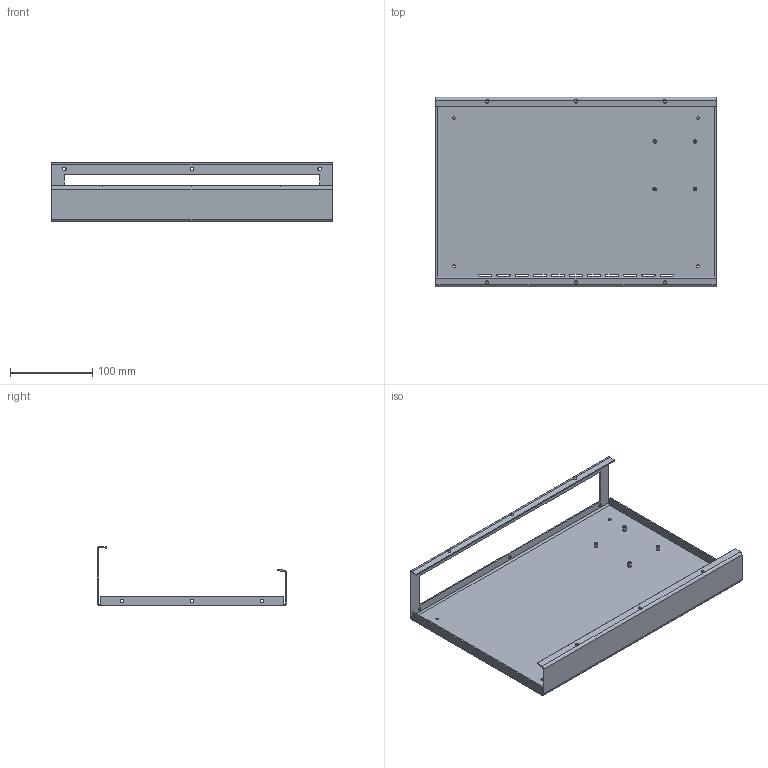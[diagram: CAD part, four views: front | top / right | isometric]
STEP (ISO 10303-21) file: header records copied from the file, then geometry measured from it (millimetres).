
FILE_DESCRIPTION(('Open CASCADE Model'),'2;1');
FILE_NAME('Open CASCADE Shape Model','2026-10-20T19:36:09',('Author'),( 'Open CASCADE'),'Open CASCADE STEP processor 7.9','Open CASCADE 7.9' ,'Unknown');
FILE_SCHEMA(('AUTOMOTIVE_DESIGN { 1 0 10303 214 1 1 1 1 }'));
Length unit declared in the file: millimetre
Products named in the file (1): Open CASCADE STEP translator 7.9 6
Bounding box: 340 x 230 x 72.62 mm (x, y, z)
Volume: 168091.1 mm3; surface area: 228333.9 mm2
Topology: 1 solids, 1 shells, 119 faces, 350 edges, 232 vertices
Faces by surface type: cylinder 62, plane 57
Full cylindrical faces by diameter (mm): 2.2 x4, 3.4 x4, 4.2 x22
Entity records: 9820 total; most frequent: CARTESIAN_POINT 3076, DIRECTION 1190, ORIENTED_EDGE 700, PCURVE 700, DEFINITIONAL_REPRESENTATION 700, LINE 628, VECTOR 628, EDGE_CURVE 350
